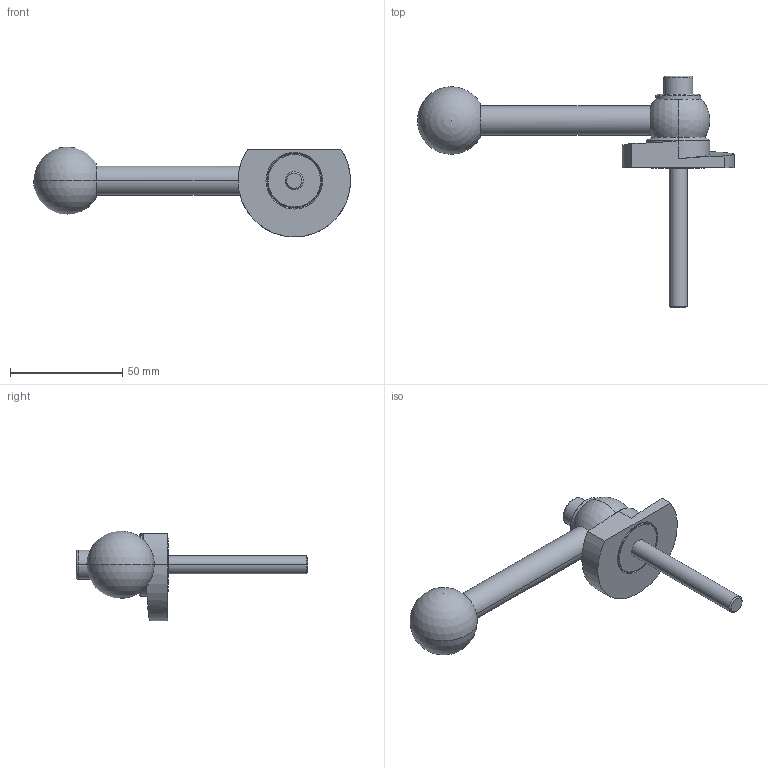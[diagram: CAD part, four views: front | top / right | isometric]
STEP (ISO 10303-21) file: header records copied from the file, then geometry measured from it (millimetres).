
FILE_DESCRIPTION (( 'STEP AP214' ), '1' );
FILE_NAME ('918.1-50-GVS-R-62.step', '2024-05-15T13:01:58', ( '' ), ( '' ), 'SwSTEP 2.0', 'SolidWorks 2022', '' );
FILE_SCHEMA (( 'AUTOMOTIVE_DESIGN' ));
Length unit declared in the file: millimetre
Products named in the file (1): 918.1-50-GVS-R-62
Bounding box: 141 x 103 x 40 mm (x, y, z)
Volume: 54090.6 mm3; surface area: 16902.1 mm2
Topology: 1 solids, 1 shells, 62 faces, 141 edges, 89 vertices
Faces by surface type: plane 20, cylinder 19, cone 14, sphere 4, bspline 3, torus 2
Entity records: 2011 total; most frequent: CARTESIAN_POINT 618, DIRECTION 305, ORIENTED_EDGE 262, EDGE_CURVE 131, AXIS2_PLACEMENT_3D 125, VERTEX_POINT 83, EDGE_LOOP 74, CIRCLE 65
